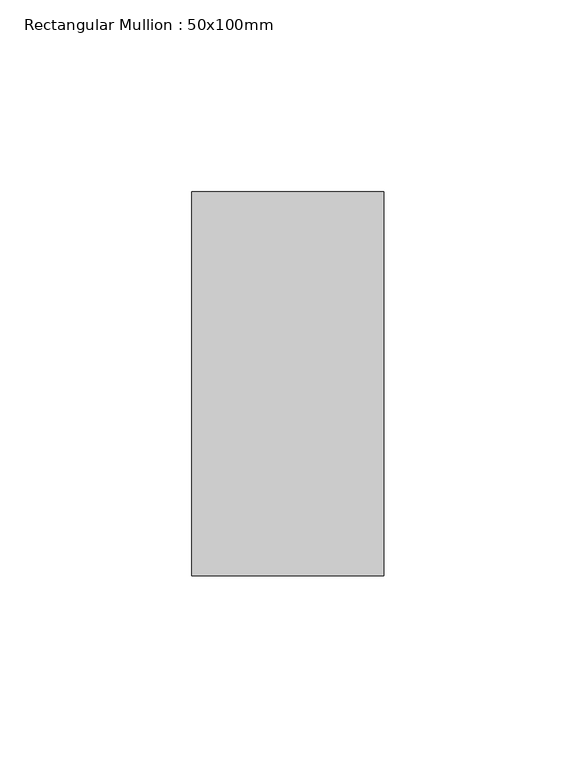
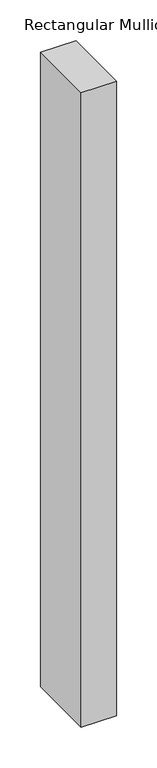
"""IFC4 building model written with IfcOpenShell, lengths in millimetres: member geometry, Rectangular Mullion : 50x100mm."""

from ifc_helpers import new_model, si_unit, frame, origin, place, context, project, spatial, polyline, outline, extrude, source, transform, mapped, element, save


def rectangular_mullion_50x100mm_71ba3ccb(model_context):
    return source(origin(), model_context, "Body", "SweptSolid", [
        extrude(outline(polyline([(25.0, 50.0), (25.0, -50.0), (-25.0, -50.0), (-25.0, 50.0), (25.0, 50.0)])), frame((0.0, 0.0, -950.7421105), z_axis=(0.0, 0.0, 1.0), x_axis=(1.0, 0.0, 0.0)), (0.0, 0.0, 1.0), 950.7421105),
    ])


if __name__ == "__main__":
    model = new_model("IFC4")
    model_context = context("Model", 3, world=origin())
    ifc_project = project(units=[si_unit("LENGTHUNIT", "METRE", prefix="MILLI")], contexts=[model_context])
    site = spatial("IfcSite", under=ifc_project)
    building = spatial("IfcBuilding", under=site)
    placement = place(None, origin())
    rectangular_mullion_50x100mm_shape = rectangular_mullion_50x100mm_71ba3ccb(model_context)
    element("IfcMember", 1, ObjectType="Rectangular Mullion : 50x100mm", at=placement, inside=building, context=model_context, shape_type="MappedRepresentation", body=[
        mapped(rectangular_mullion_50x100mm_shape, transform((0.0, 0.0, 0.0), x_axis=(1.0, 0.0, 0.0), y_axis=(0.0, 1.0, 0.0), z_axis=(0.0, 0.0, 1.0))),
    ])
    save(model, "model.ifc")
